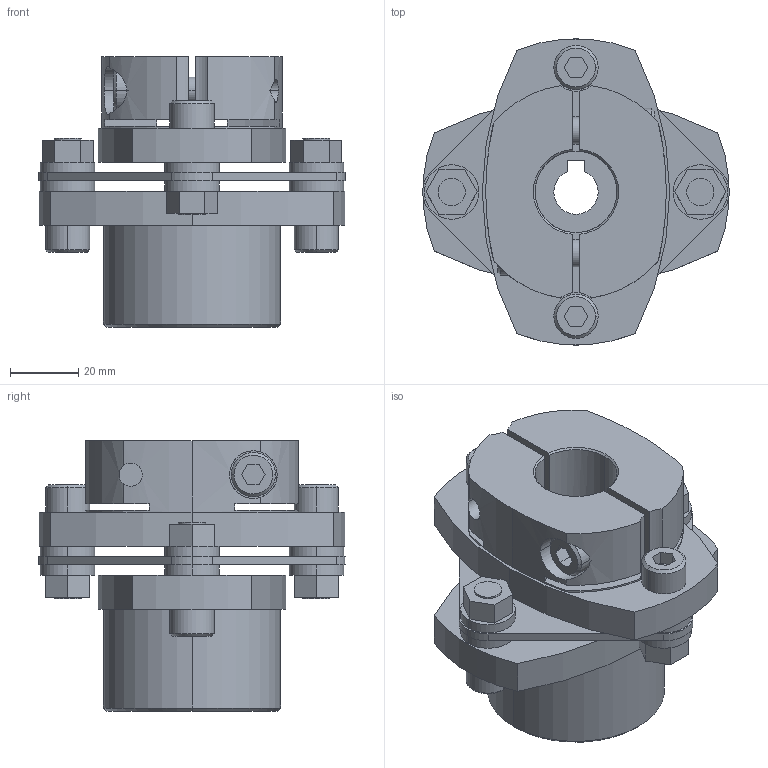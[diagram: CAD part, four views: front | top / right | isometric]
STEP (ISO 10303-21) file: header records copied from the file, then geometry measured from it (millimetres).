
FILE_DESCRIPTION((''),'2;1');
FILE_NAME('LCS-90M-16L亊24B.stp','2011-08-20T16:33:42',(''),(''),'AutoCAD STEP 2000i','AutoCAD 2000i',', , ');
FILE_SCHEMA(('CONFIG_CONTROL_DESIGN'));
Length unit declared in the file: millimetre
Products named in the file (6): LCS-90M-16L×19B; 忣兜1; LC90M-L016; LC90-B019-1; LC90-B019; LCS90-ITA
Assembly tree (5 placements, depth 2):
  LCS-90M-16L×19B
    忣兜1
    LC90M-L016
    LC90-B019-1
    LC90-B019
    LCS90-ITA
Bounding box: 90 x 89.94 x 79.5 mm (x, y, z)
Volume: 195685.5 mm3; surface area: 50892.7 mm2
Topology: 1 solids, 1 shells, 234 faces, 588 edges, 386 vertices
Faces by surface type: plane 115, cylinder 96, cone 23
Entity records: 7529 total; most frequent: CARTESIAN_POINT 1546, DIRECTION 1272, ORIENTED_EDGE 1176, EDGE_CURVE 588, AXIS2_PLACEMENT_3D 466, VERTEX_POINT 386, VECTOR 340, LINE 340
